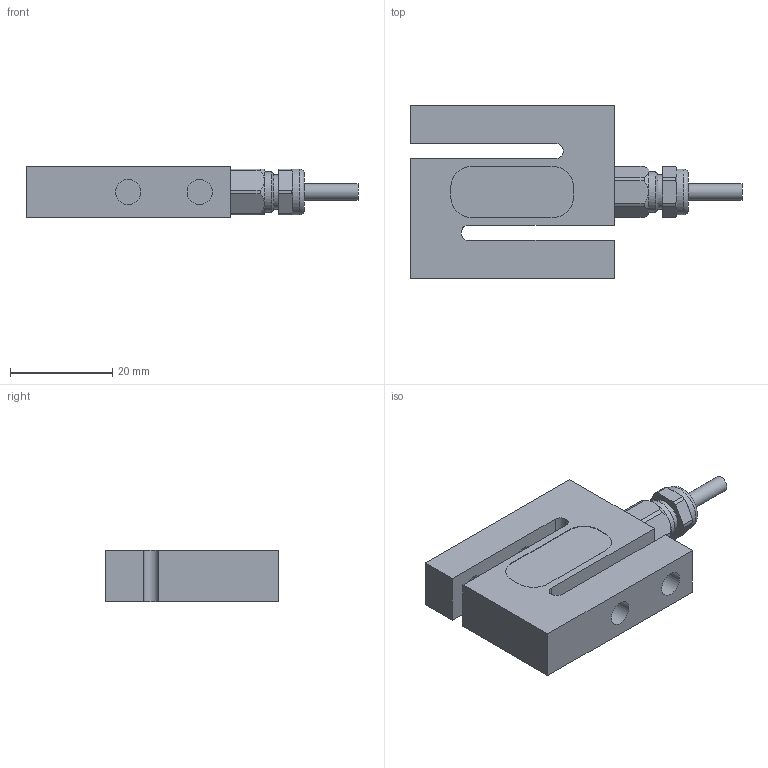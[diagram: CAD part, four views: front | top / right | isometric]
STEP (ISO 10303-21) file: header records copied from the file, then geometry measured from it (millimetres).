
FILE_DESCRIPTION(/* description */ ('Alibre Inc.'),/* implementation_level */ '2;1');
FILE_NAME(/* name */ 'export0',/* time_stamp */ '2015-03-16T15:57:21+01:00',/* author */ (''),/* organization */ (''),/* preprocessor_version */ 'ST-DEVELOPER v14',/* originating_system */ 'Alibre',/* authorisation */ '');
FILE_SCHEMA (('CONFIG_CONTROL_DESIGN'));
Length unit declared in the file: centimetre
Products named in the file (5): ID_1; _SKINDICHT MINI M 6x1      Art. Nr. 52001860(F=2); ID_2; ID_3
Bounding box: 65 x 34 x 10 mm (x, y, z)
Volume: 12189.7 mm3; surface area: 6510.7 mm2
Topology: 3 solids, 4 shells, 125 faces, 316 edges, 206 vertices
Faces by surface type: plane 59, cylinder 47, cone 16, torus 3
Full cylindrical faces by diameter (mm): 2 x1, 3.15 x1, 4.7 x1, 4.773 x1, 4.917 x5, 6 x1, 6.773 x1, 8 x1, 9 x1
Entity records: 4160 total; most frequent: CARTESIAN_POINT 788, ORIENTED_EDGE 582, DIRECTION 568, EDGE_CURVE 291, AXIS2_PLACEMENT_3D 239, VERTEX_POINT 202, FACE_BOUND 165, EDGE_LOOP 164
